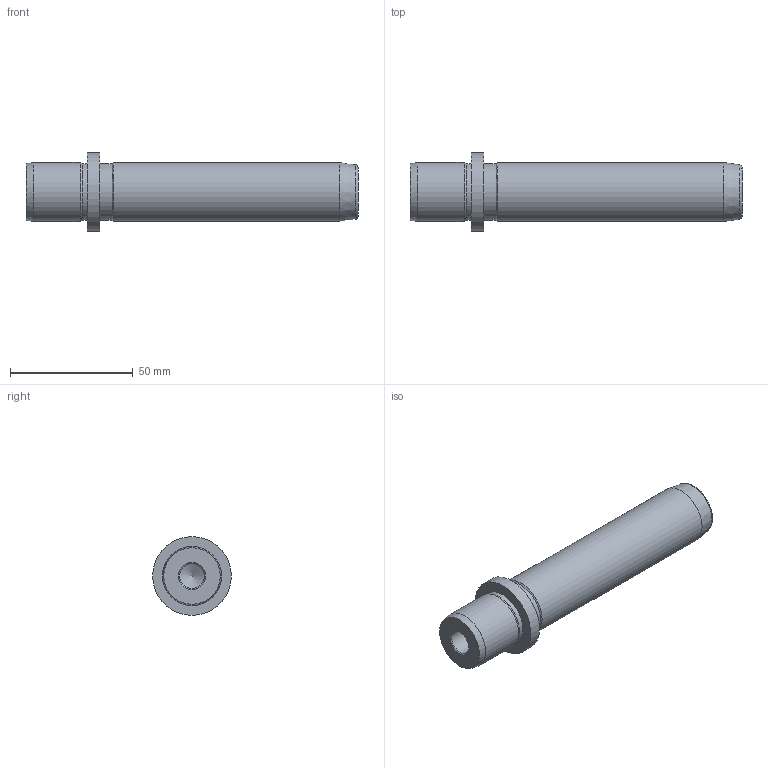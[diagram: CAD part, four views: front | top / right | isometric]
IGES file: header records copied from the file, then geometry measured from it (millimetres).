
Global section: file name: CE24110.ipt; native system: Autodesk Inventor 2021; preprocessor: unknown; author: SM; date: 20211217.134036; units: millimetre
Bounding box: 135 x 32 x 32 mm (x, y, z)
Volume: 60074.4 mm3; surface area: 12649.2 mm2
Topology: 1 solids, 1 shells, 17 faces, 35 edges, 22 vertices
Faces by surface type: cylinder 5, cone 4, plane 4, revolution 3, bspline 1
Full cylindrical faces by diameter (mm): 23 x2, 24 x2, 32 x1
